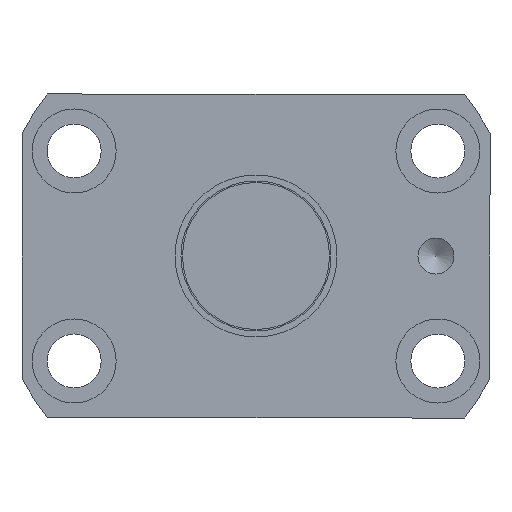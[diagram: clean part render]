
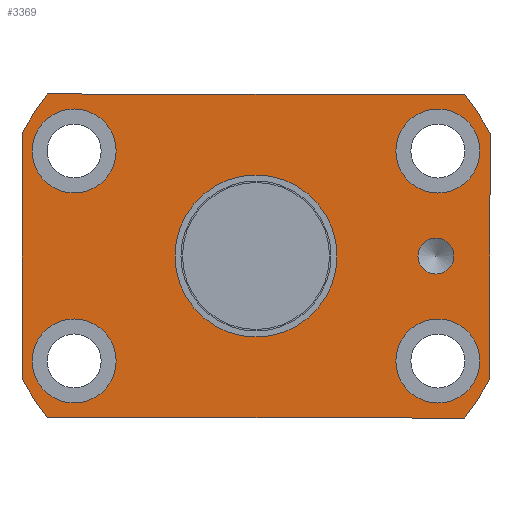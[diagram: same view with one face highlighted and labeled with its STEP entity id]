
A CAD part, left-side view. The second image highlights one B-rep face of the part: STEP entity #3369.
In plain terms, the highlighted planar face has unit normal (-1, 0, 0).
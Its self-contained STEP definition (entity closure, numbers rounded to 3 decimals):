
#375=CARTESIAN_POINT('',(468.627,-27.,0.));
#376=VERTEX_POINT('',#375);
#377=CARTESIAN_POINT('',(468.627,-30.0,0.));
#378=DIRECTION('',(1.0,0.0,0.0));
#379=DIRECTION('',(0.0,1.0,0.0));
#380=AXIS2_PLACEMENT_3D('',#377,#378,#379);
#381=CIRCLE('',#380,3.);
#382=EDGE_CURVE('',#376,#376,#381,.T.);
#516=CARTESIAN_POINT('',(468.627,37.311,-17.5));
#517=VERTEX_POINT('',#516);
#518=CARTESIAN_POINT('',(468.627,30.311,-17.5));
#519=DIRECTION('',(1.0,0.0,0.0));
#520=DIRECTION('',(0.0,1.0,0.0));
#521=AXIS2_PLACEMENT_3D('',#518,#519,#520);
#522=CIRCLE('',#521,7.);
#523=EDGE_CURVE('',#517,#517,#522,.T.);
#584=CARTESIAN_POINT('',(468.627,-23.311,17.5));
#585=VERTEX_POINT('',#584);
#586=CARTESIAN_POINT('',(468.627,-30.311,17.5));
#587=DIRECTION('',(1.0,0.0,0.0));
#588=DIRECTION('',(0.0,1.0,0.0));
#589=AXIS2_PLACEMENT_3D('',#586,#587,#588);
#590=CIRCLE('',#589,7.);
#591=EDGE_CURVE('',#585,#585,#590,.T.);
#652=CARTESIAN_POINT('',(468.627,-23.311,-17.5));
#653=VERTEX_POINT('',#652);
#654=CARTESIAN_POINT('',(468.627,-30.311,-17.5));
#655=DIRECTION('',(1.0,0.0,0.0));
#656=DIRECTION('',(0.0,1.0,0.0));
#657=AXIS2_PLACEMENT_3D('',#654,#655,#656);
#658=CIRCLE('',#657,7.);
#659=EDGE_CURVE('',#653,#653,#658,.T.);
#720=CARTESIAN_POINT('',(468.627,37.311,17.5));
#721=VERTEX_POINT('',#720);
#722=CARTESIAN_POINT('',(468.627,30.311,17.5));
#723=DIRECTION('',(1.0,0.0,0.0));
#724=DIRECTION('',(0.0,1.0,0.0));
#725=AXIS2_PLACEMENT_3D('',#722,#723,#724);
#726=CIRCLE('',#725,7.);
#727=EDGE_CURVE('',#721,#721,#726,.T.);
#3068=CARTESIAN_POINT('',(468.627,-39.,20.372));
#3069=VERTEX_POINT('',#3068);
#3076=CARTESIAN_POINT('',(468.627,-39.0,-20.372));
#3077=VERTEX_POINT('',#3076);
#3078=CARTESIAN_POINT('',(468.627,-39.,20.372));
#3079=DIRECTION('',(0.0,0.0,-1.0));
#3080=VECTOR('',#3079,40.743);
#3081=LINE('',#3078,#3080);
#3082=EDGE_CURVE('',#3069,#3077,#3081,.T.);
#3099=CARTESIAN_POINT('',(468.627,-34.742,27.));
#3100=VERTEX_POINT('',#3099);
#3107=CARTESIAN_POINT('',(468.627,0.,0.0));
#3108=DIRECTION('',(1.0,0.0,0.0));
#3109=DIRECTION('',(0.0,1.0,0.0));
#3110=AXIS2_PLACEMENT_3D('',#3107,#3108,#3109);
#3111=CIRCLE('',#3110,44.0);
#3112=EDGE_CURVE('',#3100,#3069,#3111,.T.);
#3124=CARTESIAN_POINT('',(468.627,34.742,27.));
#3125=VERTEX_POINT('',#3124);
#3132=CARTESIAN_POINT('',(468.627,34.742,27.));
#3133=DIRECTION('',(0.0,-1.0,0.0));
#3134=VECTOR('',#3133,69.484);
#3135=LINE('',#3132,#3134);
#3136=EDGE_CURVE('',#3125,#3100,#3135,.T.);
#3148=CARTESIAN_POINT('',(468.627,-34.742,-27.));
#3149=VERTEX_POINT('',#3148);
#3156=CARTESIAN_POINT('',(468.627,34.742,-27.));
#3157=VERTEX_POINT('',#3156);
#3158=CARTESIAN_POINT('',(468.627,-34.742,-27.));
#3159=DIRECTION('',(0.0,1.0,0.0));
#3160=VECTOR('',#3159,69.484);
#3161=LINE('',#3158,#3160);
#3162=EDGE_CURVE('',#3149,#3157,#3161,.T.);
#3179=CARTESIAN_POINT('',(468.627,39.,20.372));
#3180=VERTEX_POINT('',#3179);
#3187=CARTESIAN_POINT('',(468.627,0.,0.0));
#3188=DIRECTION('',(1.0,0.0,0.0));
#3189=DIRECTION('',(0.0,1.0,0.0));
#3190=AXIS2_PLACEMENT_3D('',#3187,#3188,#3189);
#3191=CIRCLE('',#3190,44.0);
#3192=EDGE_CURVE('',#3180,#3125,#3191,.T.);
#3204=CARTESIAN_POINT('',(468.627,39.,-20.372));
#3205=VERTEX_POINT('',#3204);
#3212=CARTESIAN_POINT('',(468.627,39.,-20.372));
#3213=DIRECTION('',(0.0,0.0,1.0));
#3214=VECTOR('',#3213,40.743);
#3215=LINE('',#3212,#3214);
#3216=EDGE_CURVE('',#3205,#3180,#3215,.T.);
#3229=CARTESIAN_POINT('',(468.627,0.,0.0));
#3230=DIRECTION('',(1.0,0.0,0.0));
#3231=DIRECTION('',(0.0,1.0,0.0));
#3232=AXIS2_PLACEMENT_3D('',#3229,#3230,#3231);
#3233=CIRCLE('',#3232,44.0);
#3234=EDGE_CURVE('',#3157,#3205,#3233,.T.);
#3247=CARTESIAN_POINT('',(468.627,0.,0.0));
#3248=DIRECTION('',(1.0,0.0,0.0));
#3249=DIRECTION('',(0.0,1.0,0.0));
#3250=AXIS2_PLACEMENT_3D('',#3247,#3248,#3249);
#3251=CIRCLE('',#3250,44.0);
#3252=EDGE_CURVE('',#3077,#3149,#3251,.T.);
#3263=CARTESIAN_POINT('',(468.627,13.5,0.0));
#3264=VERTEX_POINT('',#3263);
#3265=CARTESIAN_POINT('',(468.627,0.,0.0));
#3266=DIRECTION('',(1.0,0.0,0.0));
#3267=DIRECTION('',(0.0,1.0,0.0));
#3268=AXIS2_PLACEMENT_3D('',#3265,#3266,#3267);
#3269=CIRCLE('',#3268,13.5);
#3270=EDGE_CURVE('',#3264,#3264,#3269,.T.);
#3336=CARTESIAN_POINT('',(468.627,20.25,0.0));
#3337=DIRECTION('',(-1.0,0.0,0.0));
#3338=DIRECTION('',(0.0,0.0,1.0));
#3339=AXIS2_PLACEMENT_3D('',#3336,#3337,#3338);
#3340=PLANE('',#3339);
#3341=ORIENTED_EDGE('',*,*,#3162,.F.);
#3342=ORIENTED_EDGE('',*,*,#3252,.F.);
#3343=ORIENTED_EDGE('',*,*,#3082,.F.);
#3344=ORIENTED_EDGE('',*,*,#3112,.F.);
#3345=ORIENTED_EDGE('',*,*,#3136,.F.);
#3346=ORIENTED_EDGE('',*,*,#3192,.F.);
#3347=ORIENTED_EDGE('',*,*,#3216,.F.);
#3348=ORIENTED_EDGE('',*,*,#3234,.F.);
#3349=EDGE_LOOP('',(#3341,#3342,#3343,#3344,#3345,#3346,#3347,#3348));
#3350=FACE_OUTER_BOUND('',#3349,.T.);
#3351=ORIENTED_EDGE('',*,*,#382,.T.);
#3352=EDGE_LOOP('',(#3351));
#3353=FACE_BOUND('',#3352,.T.);
#3354=ORIENTED_EDGE('',*,*,#523,.T.);
#3355=EDGE_LOOP('',(#3354));
#3356=FACE_BOUND('',#3355,.T.);
#3357=ORIENTED_EDGE('',*,*,#591,.T.);
#3358=EDGE_LOOP('',(#3357));
#3359=FACE_BOUND('',#3358,.T.);
#3360=ORIENTED_EDGE('',*,*,#659,.T.);
#3361=EDGE_LOOP('',(#3360));
#3362=FACE_BOUND('',#3361,.T.);
#3363=ORIENTED_EDGE('',*,*,#727,.T.);
#3364=EDGE_LOOP('',(#3363));
#3365=FACE_BOUND('',#3364,.T.);
#3366=ORIENTED_EDGE('',*,*,#3270,.T.);
#3367=EDGE_LOOP('',(#3366));
#3368=FACE_BOUND('',#3367,.T.);
#3369=ADVANCED_FACE('',(#3350,#3353,#3356,#3359,#3362,#3365,#3368),#3340,.T.);
